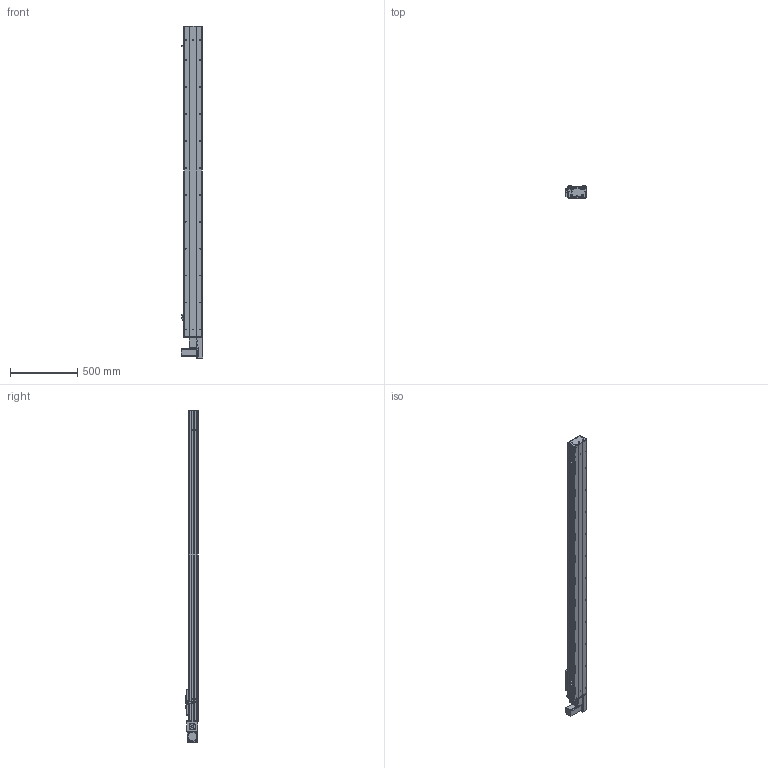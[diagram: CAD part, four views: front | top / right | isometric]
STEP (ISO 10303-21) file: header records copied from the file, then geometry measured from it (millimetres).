
FILE_DESCRIPTION (( 'STEP AP203' ), '1' );
FILE_NAME ('Y135CB-D90-S2000-BL-P400W.STEP', '2020-02-18T01:30:32', ( '微软用户' ), ( '微软中国' ), 'SwSTEP 2.0', 'SolidWorks 2017', '' );
FILE_SCHEMA (( 'CONFIG_CONTROL_DESIGN' ));
Length unit declared in the file: millimetre
Products named in the file (18): Y10B--々湍喘謫眊--666; 135CB--詩湍-CE; Y10B-耜蚾蟀諉啣----; Y100-135俋离換覜ん--; Y俋欶BR----; Y135C-陔俋离換覜結え-; 0B-埴倛裔啣; 5C--俋欶; 0B-源倛裔啣; C-雄赽釱--; 0B-萇儂楊擘啣; Y135CB-耜裔; Y135CB-D90-S2000-BL-P400W; san松下电机400不带刹车----; 135CB---遴掛极.-; 5CB --掛极耜裔啣-; 35CB---喘謫眊楊擘啣; C-詩湍揤踡え-陔
Assembly tree (21 placements, depth 2):
  Y135CB-D90-S2000-BL-P400W
    Y135CB-耜裔
    135CB---遴掛极.-
    35CB---喘謫眊楊擘啣
    Y10B--々湍喘謫眊--666
    Y10B-耜蚾蟀諉啣----
    Y俋欶BR----
    0B-埴倛裔啣
    0B-源倛裔啣
    0B-萇儂楊擘啣
    san松下电机400不带刹车----
    5CB --掛极耜裔啣-  x2
    C-詩湍揤踡え-陔  x2
    135CB--詩湍-CE
    Y100-135俋离換覜ん--  x3
    Y135C-陔俋离換覜結え-
    5C--俋欶
    C-雄赽釱--
Bounding box: 157.5 x 91 x 2464.5 mm (x, y, z)
Volume: 6984213.6 mm3; surface area: 2759847.7 mm2
Topology: 21 solids, 21 shells, 965 faces, 2617 edges, 1734 vertices
Faces by surface type: cylinder 491, plane 458, cone 16
Entity records: 30351 total; most frequent: DIRECTION 5041, CARTESIAN_POINT 5032, ORIENTED_EDGE 4710, EDGE_CURVE 2355, AXIS2_PLACEMENT_3D 1843, VERTEX_POINT 1562, VECTOR 1355, LINE 1355
